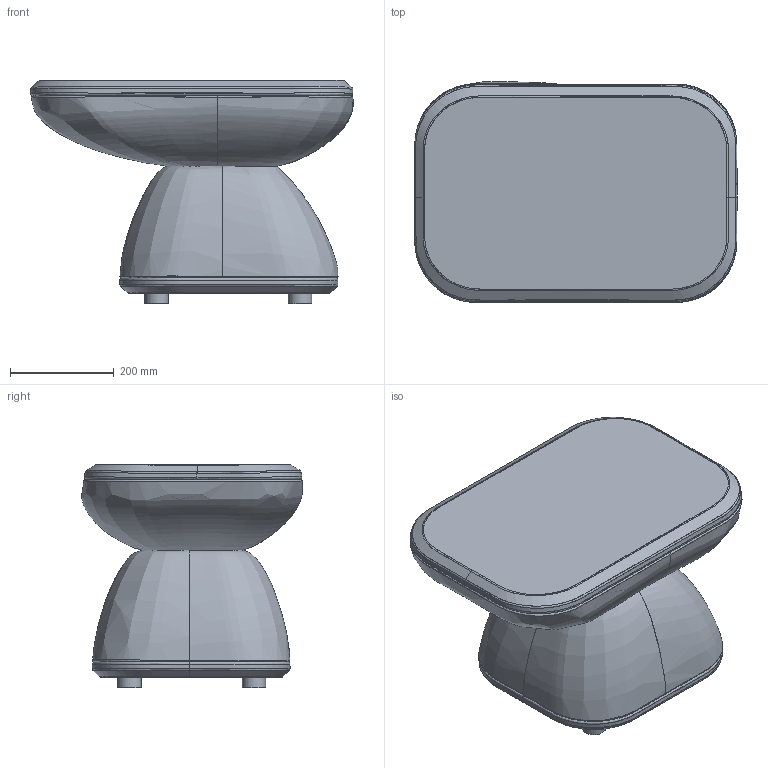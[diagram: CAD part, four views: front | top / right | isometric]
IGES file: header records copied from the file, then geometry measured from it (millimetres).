
Global section: file name: C:\Users\market02\Desktop\RYAN\kiss\FKISSGU062_GUERIDON_PEDESTAL TABLE_KISS\FKISSGU062_GUERIDON_PEDESTAL TABLE_KISS.igs; native system: Rhinoceros ( Dec 14 2021 ); preprocessor: Trout Lake IGES 012 Dec 14 2021; date: 220902.140920; units: millimetre
Bounding box: 621.16 x 425.43 x 430.08 mm (x, y, z)
Surface area: 1957011.8 mm2 (no closed solid volume)
Topology: 0 solids, 0 shells, 93 faces, 1856 edges, 1845 vertices
Faces by surface type: bspline 93
